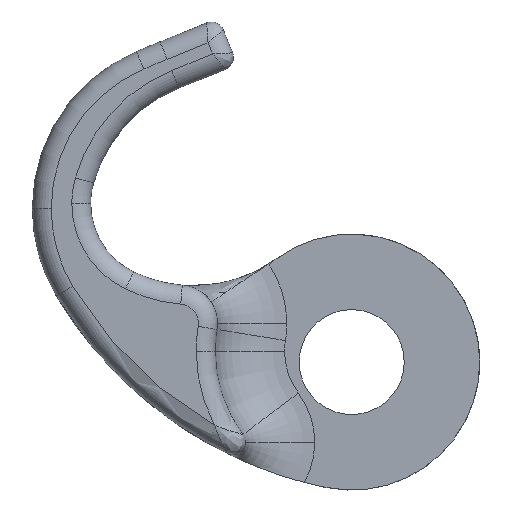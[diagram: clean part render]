
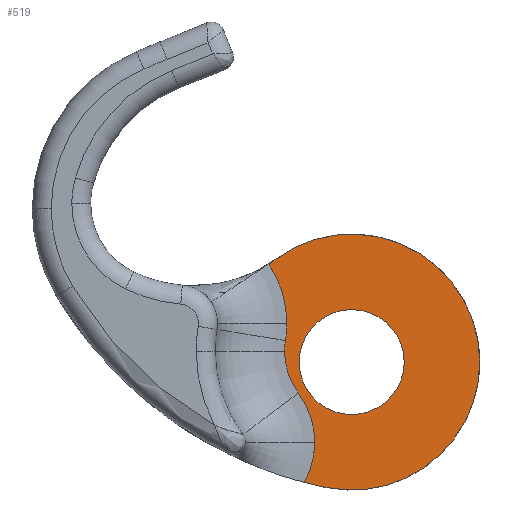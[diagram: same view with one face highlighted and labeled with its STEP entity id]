
A CAD part, top view. The second image highlights one B-rep face of the part: STEP entity #519.
In plain terms, the highlighted planar face has unit normal (0, 0, 1).
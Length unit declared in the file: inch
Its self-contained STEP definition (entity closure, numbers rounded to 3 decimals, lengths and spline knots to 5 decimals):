
#16 = EDGE_CURVE ( 'NONE', #1394, #2852, #1664, .T. ) ;
#25 = DIRECTION ( 'NONE',  ( 0., 0., 1. ) ) ;
#40 = CARTESIAN_POINT ( 'NONE',  ( 0.01072, 0.05218, 0.11811 ) ) ;
#43 = DIRECTION ( 'NONE',  ( 1., 0., 0. ) ) ;
#103 = FACE_OUTER_BOUND ( 'NONE', #492, .T. ) ;
#105 = ORIENTED_EDGE ( 'NONE', *, *, #2028, .F. ) ;
#136 = CIRCLE ( 'NONE', #952, 0.40625 ) ;
#264 = CIRCLE ( 'NONE', #1704, 0.63374 ) ;
#289 = ORIENTED_EDGE ( 'NONE', *, *, #361, .F. ) ;
#296 = DIRECTION ( 'NONE',  ( 0., 0., 1. ) ) ;
#334 = CIRCLE ( 'NONE', #3318, 0.40625 ) ;
#361 = EDGE_CURVE ( 'NONE', #2910, #3513, #3147, .T. ) ;
#397 = CIRCLE ( 'NONE', #2523, 0.26 ) ;
#403 = AXIS2_PLACEMENT_3D ( 'NONE', #3186, #968, #1514 ) ;
#429 = CARTESIAN_POINT ( 'NONE',  ( 0., 0., 0.11811 ) ) ;
#431 = EDGE_CURVE ( 'NONE', #1372, #1394, #2582, .T. ) ;
#435 = CIRCLE ( 'NONE', #403, 0.63374 ) ;
#474 = DIRECTION ( 'NONE',  ( 1., 0., 0. ) ) ;
#491 = CARTESIAN_POINT ( 'NONE',  ( -0.78181, 1.0651, 0.11811 ) ) ;
#492 = EDGE_LOOP ( 'NONE', ( #835, #2157, #2068, #2766, #3116, #3145, #105, #2603, #2580, #3229 ) ) ;
#496 = CARTESIAN_POINT ( 'NONE',  ( -0.32145, 0.19111, 0.11811 ) ) ;
#519 = ADVANCED_FACE ( 'NONE', ( #103, #1757 ), #3331, .T. ) ;
#533 = CARTESIAN_POINT ( 'NONE',  ( -0.58935, -0.3969, 0.11811 ) ) ;
#583 = EDGE_CURVE ( 'NONE', #2852, #804, #2103, .T. ) ;
#599 = DIRECTION ( 'NONE',  ( 1., 0., 0. ) ) ;
#615 = CIRCLE ( 'NONE', #2550, 0.6875 ) ;
#642 = CARTESIAN_POINT ( 'NONE',  ( -0.85473, 0.19111, 0.11811 ) ) ;
#716 = DIRECTION ( 'NONE',  ( 1., 0., 0. ) ) ;
#804 = VERTEX_POINT ( 'NONE', #3504 ) ;
#821 = AXIS2_PLACEMENT_3D ( 'NONE', #2413, #3220, #1548 ) ;
#831 = EDGE_CURVE ( 'NONE', #3513, #2910, #397, .T. ) ;
#835 = ORIENTED_EDGE ( 'NONE', *, *, #16, .T. ) ;
#881 = CARTESIAN_POINT ( 'NONE',  ( -0.41066, 0.48639, 0.11811 ) ) ;
#945 = CIRCLE ( 'NONE', #821, 2.03125 ) ;
#952 = AXIS2_PLACEMENT_3D ( 'NONE', #2088, #3559, #474 ) ;
#960 = CARTESIAN_POINT ( 'NONE',  ( 0.63374, 0., 0.11811 ) ) ;
#968 = DIRECTION ( 'NONE',  ( 0., 0., -1. ) ) ;
#980 = CARTESIAN_POINT ( 'NONE',  ( -0.1275, -0.62078, 0.11811 ) ) ;
#1022 = DIRECTION ( 'NONE',  ( 0., 0., -1. ) ) ;
#1023 = DIRECTION ( 'NONE',  ( 1., 0., 0. ) ) ;
#1063 = VERTEX_POINT ( 'NONE', #881 ) ;
#1072 = CIRCLE ( 'NONE', #3183, 0.53327 ) ;
#1127 = EDGE_CURVE ( 'NONE', #2997, #2064, #264, .T. ) ;
#1206 = AXIS2_PLACEMENT_3D ( 'NONE', #3250, #2161, #1023 ) ;
#1322 = VERTEX_POINT ( 'NONE', #3035 ) ;
#1372 = VERTEX_POINT ( 'NONE', #496 ) ;
#1375 = CARTESIAN_POINT ( 'NONE',  ( 0.26, 0., 0.11811 ) ) ;
#1394 = VERTEX_POINT ( 'NONE', #3285 ) ;
#1408 = CARTESIAN_POINT ( 'NONE',  ( 0.01072, 0.05218, 0.11811 ) ) ;
#1440 = DIRECTION ( 'NONE',  ( 0., 0., 1. ) ) ;
#1508 = DIRECTION ( 'NONE',  ( 0., 0., -1. ) ) ;
#1514 = DIRECTION ( 'NONE',  ( -1., 0., 0. ) ) ;
#1548 = DIRECTION ( 'NONE',  ( 1., 0., 0. ) ) ;
#1587 = CARTESIAN_POINT ( 'NONE',  ( 0., 0., 0.11811 ) ) ;
#1664 = CIRCLE ( 'NONE', #2217, 0.34325 ) ;
#1697 = EDGE_CURVE ( 'NONE', #1063, #1322, #615, .T. ) ;
#1704 = AXIS2_PLACEMENT_3D ( 'NONE', #3441, #1508, #3475 ) ;
#1711 = DIRECTION ( 'NONE',  ( 1., 0., 0. ) ) ;
#1757 = FACE_BOUND ( 'NONE', #2203, .T. ) ;
#1767 = DIRECTION ( 'NONE',  ( 0., 0., -1. ) ) ;
#1813 = VERTEX_POINT ( 'NONE', #3305 ) ;
#1891 = CARTESIAN_POINT ( 'NONE',  ( -0.1831, -0.3969, 0.11811 ) ) ;
#1968 = DIRECTION ( 'NONE',  ( 1., 0., 0. ) ) ;
#1992 = CARTESIAN_POINT ( 'NONE',  ( -0.26, 0., 0.11811 ) ) ;
#2028 = EDGE_CURVE ( 'NONE', #1322, #2997, #435, .T. ) ;
#2064 = VERTEX_POINT ( 'NONE', #980 ) ;
#2068 = ORIENTED_EDGE ( 'NONE', *, *, #2287, .T. ) ;
#2088 = CARTESIAN_POINT ( 'NONE',  ( -0.58935, -0.3969, 0.11811 ) ) ;
#2103 = CIRCLE ( 'NONE', #3527, 0.34325 ) ;
#2157 = ORIENTED_EDGE ( 'NONE', *, *, #583, .T. ) ;
#2161 = DIRECTION ( 'NONE',  ( 0., 0., -1. ) ) ;
#2203 = EDGE_LOOP ( 'NONE', ( #289, #3586 ) ) ;
#2205 = DIRECTION ( 'NONE',  ( 1., 0., 0. ) ) ;
#2217 = AXIS2_PLACEMENT_3D ( 'NONE', #1408, #1440, #43 ) ;
#2270 = AXIS2_PLACEMENT_3D ( 'NONE', #2512, #25, #1968 ) ;
#2287 = EDGE_CURVE ( 'NONE', #804, #3480, #136, .T. ) ;
#2289 = CARTESIAN_POINT ( 'NONE',  ( -0.33253, 0.05218, 0.11811 ) ) ;
#2387 = DIRECTION ( 'NONE',  ( 0., 0., 1. ) ) ;
#2413 = CARTESIAN_POINT ( 'NONE',  ( 0.28116, 1.36894, 0.11811 ) ) ;
#2482 = DIRECTION ( 'NONE',  ( 0., 0., 1. ) ) ;
#2512 = CARTESIAN_POINT ( 'NONE',  ( 0., 0., 0.11811 ) ) ;
#2523 = AXIS2_PLACEMENT_3D ( 'NONE', #429, #2387, #716 ) ;
#2550 = AXIS2_PLACEMENT_3D ( 'NONE', #491, #2482, #3281 ) ;
#2580 = ORIENTED_EDGE ( 'NONE', *, *, #3153, .T. ) ;
#2582 = CIRCLE ( 'NONE', #1206, 0.53327 ) ;
#2603 = ORIENTED_EDGE ( 'NONE', *, *, #1697, .F. ) ;
#2736 = DIRECTION ( 'NONE',  ( 1., 0., 0. ) ) ;
#2766 = ORIENTED_EDGE ( 'NONE', *, *, #3397, .T. ) ;
#2852 = VERTEX_POINT ( 'NONE', #2289 ) ;
#2910 = VERTEX_POINT ( 'NONE', #1992 ) ;
#2997 = VERTEX_POINT ( 'NONE', #960 ) ;
#3035 = CARTESIAN_POINT ( 'NONE',  ( -0.375, 0.51088, 0.11811 ) ) ;
#3075 = EDGE_CURVE ( 'NONE', #2064, #1813, #945, .T. ) ;
#3116 = ORIENTED_EDGE ( 'NONE', *, *, #3075, .F. ) ;
#3145 = ORIENTED_EDGE ( 'NONE', *, *, #1127, .F. ) ;
#3147 = CIRCLE ( 'NONE', #3333, 0.26 ) ;
#3153 = EDGE_CURVE ( 'NONE', #1063, #1372, #1072, .T. ) ;
#3183 = AXIS2_PLACEMENT_3D ( 'NONE', #642, #1767, #1711 ) ;
#3186 = CARTESIAN_POINT ( 'NONE',  ( 0., 0., 0.11811 ) ) ;
#3220 = DIRECTION ( 'NONE',  ( 0., 0., -1. ) ) ;
#3229 = ORIENTED_EDGE ( 'NONE', *, *, #431, .T. ) ;
#3250 = CARTESIAN_POINT ( 'NONE',  ( -0.85473, 0.19111, 0.11811 ) ) ;
#3281 = DIRECTION ( 'NONE',  ( 1., 0., 0. ) ) ;
#3285 = CARTESIAN_POINT ( 'NONE',  ( -0.32819, 0.10658, 0.11811 ) ) ;
#3305 = CARTESIAN_POINT ( 'NONE',  ( -0.23503, -0.59563, 0.11811 ) ) ;
#3318 = AXIS2_PLACEMENT_3D ( 'NONE', #533, #1022, #2205 ) ;
#3331 = PLANE ( 'NONE',  #2270 ) ;
#3333 = AXIS2_PLACEMENT_3D ( 'NONE', #1587, #3545, #2736 ) ;
#3397 = EDGE_CURVE ( 'NONE', #3480, #1813, #334, .T. ) ;
#3441 = CARTESIAN_POINT ( 'NONE',  ( 0., 0., 0.11811 ) ) ;
#3475 = DIRECTION ( 'NONE',  ( -1., 0., 0. ) ) ;
#3480 = VERTEX_POINT ( 'NONE', #1891 ) ;
#3504 = CARTESIAN_POINT ( 'NONE',  ( -0.2641, -0.15349, 0.11811 ) ) ;
#3513 = VERTEX_POINT ( 'NONE', #1375 ) ;
#3527 = AXIS2_PLACEMENT_3D ( 'NONE', #40, #296, #599 ) ;
#3545 = DIRECTION ( 'NONE',  ( 0., 0., 1. ) ) ;
#3559 = DIRECTION ( 'NONE',  ( 0., 0., -1. ) ) ;
#3586 = ORIENTED_EDGE ( 'NONE', *, *, #831, .F. ) ;
